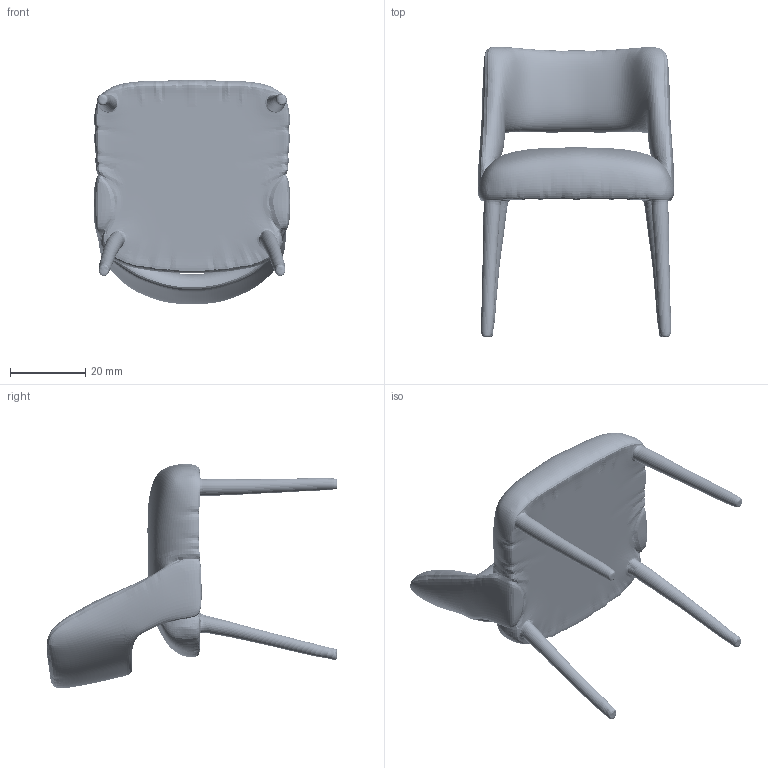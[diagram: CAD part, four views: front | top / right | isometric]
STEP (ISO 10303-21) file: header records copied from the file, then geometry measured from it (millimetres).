
FILE_DESCRIPTION((''),'2;1');
FILE_NAME('MASK_Modeling_Texturing', '2025-04-28T07:39:53', (''), (''), 'ImageToStl.com STEP Converter','', '');
FILE_SCHEMA(('AUTOMOTIVE_DESIGN_CC2'));
Length unit declared in the file: metre
Products named in the file (1): product0
Bounding box: 52.36 x 77.47 x 59.82 mm (x, y, z)
Surface area: 11864.5 mm2 (no closed solid volume)
Topology: 0 solids, 56012 shells, 56012 faces, 168036 edges, 29284 vertices
Faces by surface type: plane 56012
Entity records: 1290860 total; most frequent: DIRECTION 280062, ORIENTED_EDGE 168036, EDGE_CURVE 168036, LINE 168036, VECTOR 168036, AXIS2_PLACEMENT_3D 56013, FACE_SURFACE 56012, PLANE 56012
